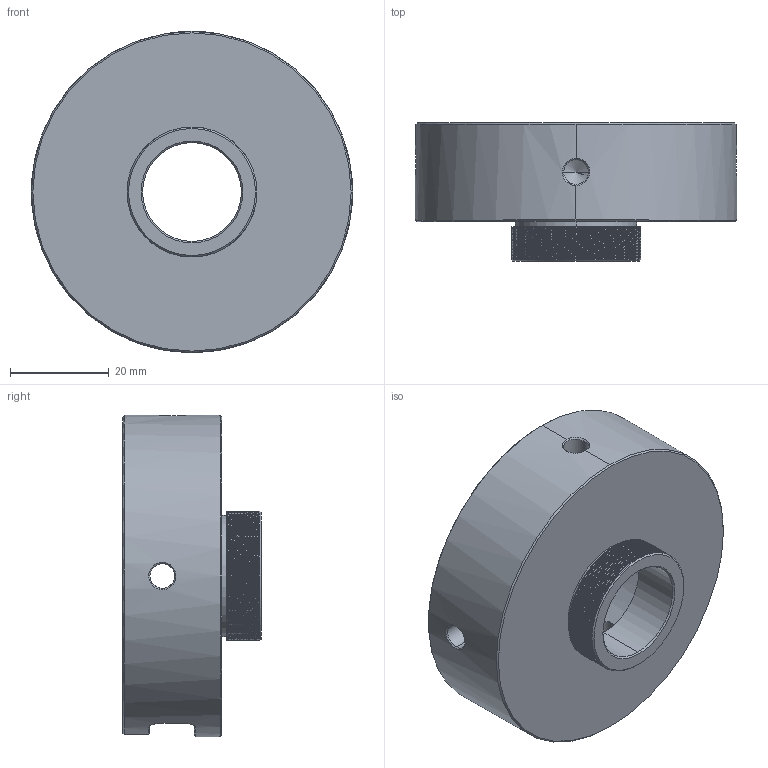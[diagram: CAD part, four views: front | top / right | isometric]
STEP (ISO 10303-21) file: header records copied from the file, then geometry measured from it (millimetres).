
FILE_DESCRIPTION (( 'STEP AP214' ), '1' );
FILE_NAME ('电动反射镜夹具修改.STEP', '2026-10-14T06:52:28', ( '' ), ( '' ), 'SwSTEP 2.0', 'SolidWorks 2024', '' );
FILE_SCHEMA (( 'AUTOMOTIVE_DESIGN' ));
Length unit declared in the file: millimetre
Products named in the file (1): 电动反射镜夹具修改
Bounding box: 65 x 28 x 65 mm (x, y, z)
Volume: 34811.9 mm3; surface area: 14629.7 mm2
Topology: 1 solids, 1 shells, 121 faces, 333 edges, 214 vertices
Faces by surface type: cylinder 64, plane 23, bspline 19, cone 15
Entity records: 11457 total; most frequent: CARTESIAN_POINT 8833, ORIENTED_EDGE 662, DIRECTION 400, EDGE_CURVE 331, VERTEX_POINT 214, AXIS2_PLACEMENT_3D 146, EDGE_LOOP 129, ADVANCED_FACE 121
